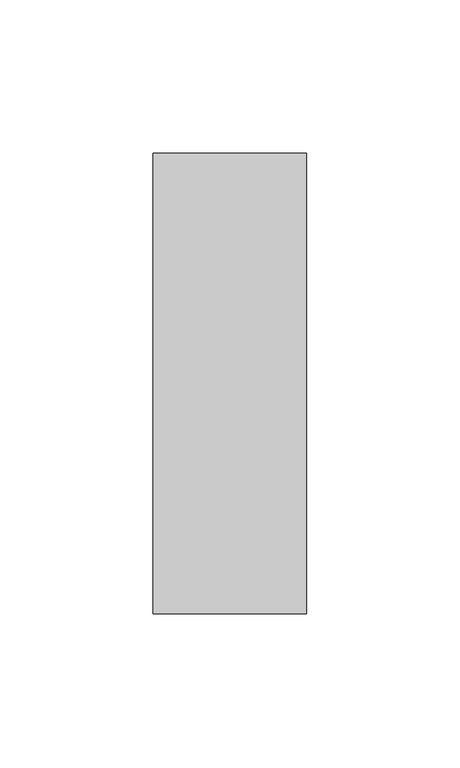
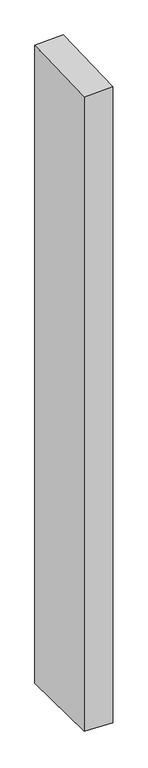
"""IFC4 building model written with IfcOpenShell, lengths in millimetres: member geometry, Прямоугольный импост : 50 x 150 мм."""

from ifc_helpers import new_model, si_unit, origin, place, context, project, spatial, faceted_brep, source, transform, mapped, element, save


def member_4c0cfa69(model_context):
    return source(origin(), model_context, "Body", "Brep", [
        faceted_brep([(-25.0, 75.0, 1.7331565), (25.0, 75.0, 3.8297652), (25.0, 75.0, -1185.2963379), (-25.0, 75.0, -1183.4458933), (-25.0, -75.0, -3.8297652), (-25.0, -75.0, -1181.9933696), (25.0, -75.0, -1.7331565), (25.0, -75.0, -1183.8438143)], [[[0, 1, 2, 3]], [[4, 0, 3, 5]], [[6, 4, 5, 7]], [[1, 6, 7, 2]], [[1, 0, 4, 6]], [[2, 7, 5, 3]]]),
    ])


if __name__ == "__main__":
    model = new_model("IFC4")
    model_context = context("Model", 3, world=origin())
    ifc_project = project(units=[si_unit("LENGTHUNIT", "METRE", prefix="MILLI")], contexts=[model_context])
    site = spatial("IfcSite", under=ifc_project)
    building = spatial("IfcBuilding", under=site)
    placement = place(None, origin())
    member_shape = member_4c0cfa69(model_context)
    element("IfcMember", 1, ObjectType="Прямоугольный импост : 50 x 150 мм", at=placement, inside=building, context=model_context, shape_type="MappedRepresentation", body=[
        mapped(member_shape, transform((0.0, 0.0, 0.0), x_axis=(1.0, 0.0, 0.0), y_axis=(0.0, 1.0, 0.0), z_axis=(0.0, 0.0, 1.0))),
    ])
    save(model, "model.ifc")
